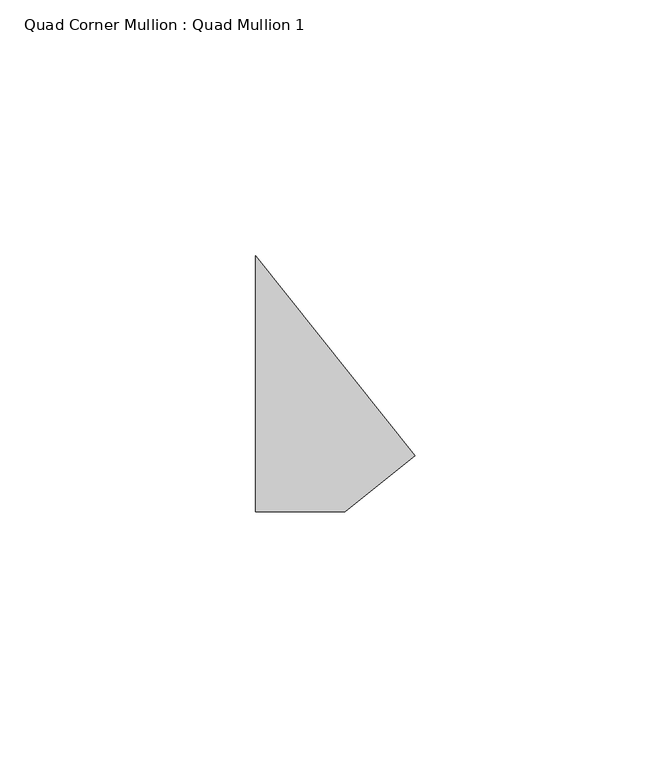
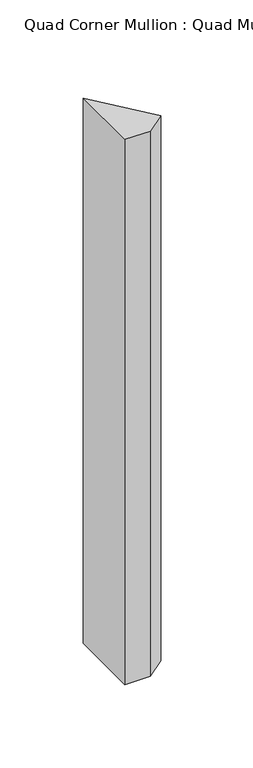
"""IFC4 building model written with IfcOpenShell, lengths in millimetres: member geometry, Quad Corner Mullion : Quad Mullion 1."""

from ifc_helpers import new_model, si_unit, frame, origin, place, context, project, spatial, polyline, outline, extrude, source, transform, mapped, element, save


def quad_corner_mullion_quad_mullion_1_d8e96da8(model_context):
    return source(origin(), model_context, "Body", "SweptSolid", [
        extrude(outline(polyline([(22.4169637, -14.1035695), (8.7424787, -25.0), (-8.7424787, -25.0), (-8.7424787, 25.0), (22.4169637, -14.1035695)])), frame((0.0, 0.0, -400.0), z_axis=(0.0, 0.0, 1.0), x_axis=(1.0, 0.0, 0.0)), (0.0, 0.0, 1.0), 400.0),
    ])


if __name__ == "__main__":
    model = new_model("IFC4")
    model_context = context("Model", 3, world=origin())
    ifc_project = project(units=[si_unit("LENGTHUNIT", "METRE", prefix="MILLI")], contexts=[model_context])
    site = spatial("IfcSite", under=ifc_project)
    building = spatial("IfcBuilding", under=site)
    placement = place(None, origin())
    quad_corner_mullion_quad_mullion_1_shape = quad_corner_mullion_quad_mullion_1_d8e96da8(model_context)
    element("IfcMember", 1, ObjectType="Quad Corner Mullion : Quad Mullion 1", at=placement, inside=building, context=model_context, shape_type="MappedRepresentation", body=[
        mapped(quad_corner_mullion_quad_mullion_1_shape, transform((0.0, 0.0, 0.0), x_axis=(1.0, 0.0, 0.0), y_axis=(0.0, 1.0, 0.0), z_axis=(0.0, 0.0, 1.0))),
    ])
    save(model, "model.ifc")
